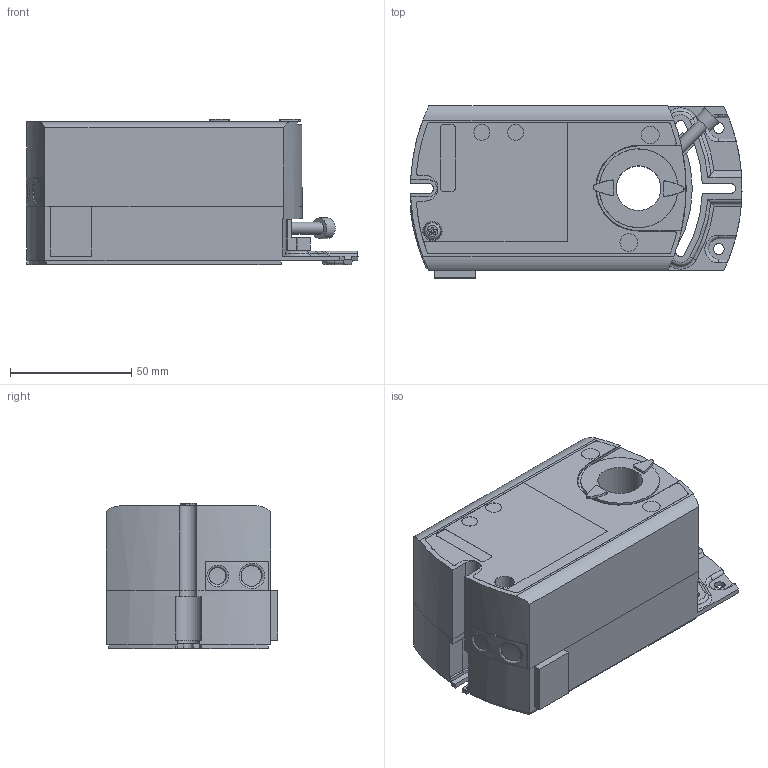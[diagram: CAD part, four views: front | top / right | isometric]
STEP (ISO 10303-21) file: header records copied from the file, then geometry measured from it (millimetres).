
FILE_DESCRIPTION(/* description */ (''),/* implementation_level */ '2;1');
FILE_NAME(/* name */ 'GLB..1E.stp',/* time_stamp */ '2014-09-16T10:06:19+02:00',/* author */ (''),/* organization */ (''),/* preprocessor_version */ 'ST-DEVELOPER v15',/* originating_system */ 'SIEMENS PLM Software NX 8.5',/* authorisation */ '');
FILE_SCHEMA (('AUTOMOTIVE_DESIGN { 1 0 10303 214 3 1 1 1 }'));
Length unit declared in the file: millimetre
Products named in the file (1): 8000077832_01
Bounding box: 137.18 x 71 x 59.97 mm (x, y, z)
Volume: 401693.7 mm3; surface area: 45395.1 mm2
Topology: 1 solids, 1 shells, 259 faces, 707 edges, 466 vertices
Faces by surface type: cylinder 111, plane 109, torus 24, cone 13, bspline 2
Full cylindrical faces by diameter (mm): 1 x1, 4.5 x2, 5 x1, 6.6 x2, 7 x1, 7.3 x1, 7.4 x1, 7.9 x1, 8.5 x2, 18.5 x1, 21 x1
Entity records: 10609 total; most frequent: CARTESIAN_POINT 2090, DIRECTION 1466, ORIENTED_EDGE 1360, EDGE_CURVE 680, AXIS2_PLACEMENT_3D 566, VERTEX_POINT 459, LINE 334, VECTOR 334
